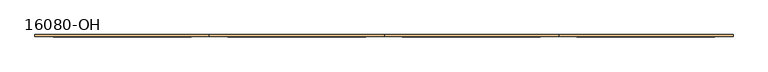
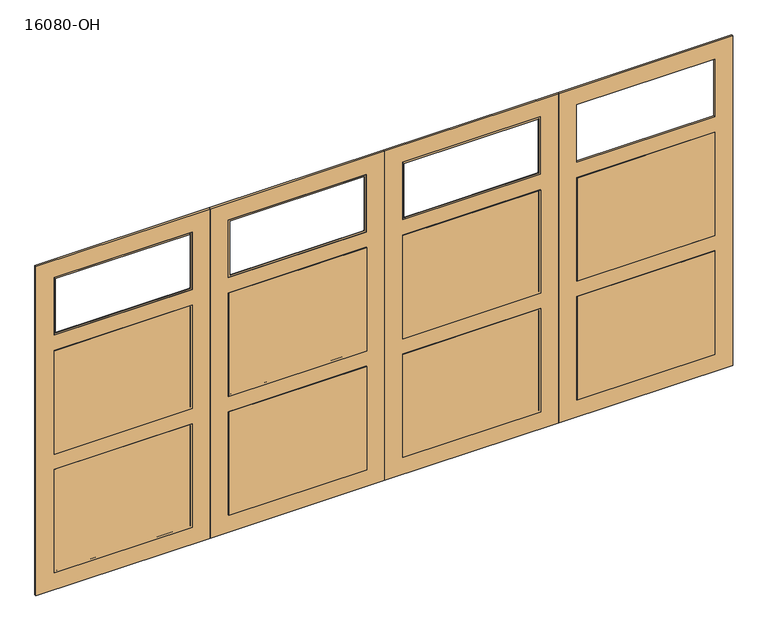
"""IFC4 building model written with IfcOpenShell, lengths in millimetres: door geometry, Upward sectional garage door : 16080-OH."""

from ifc_helpers import new_model, si_unit, frame, origin, place, context, project, spatial, polyline, ellipse_curve, outline, extrude, source, transform, mapped, element, save
from ifc_brep_helpers import plane_surface, cylinder_surface, advanced_brep


def door_16080_oh_f696e647(model_context):
    return source(origin(), model_context, "Body", "SolidModel", [
        extrude(outline(polyline([(2438.4, 0.0), (2438.4, -1219.2), (0.0, -1219.2), (0.0, 0.0), (2438.4, 0.0)]), holes=[polyline([(1771.65, -127.0), (1006.475, -127.0), (1006.475, -1092.2), (1771.65, -1092.2), (1771.65, -127.0)]), polyline([(892.175, -127.0), (127.0, -127.0), (127.0, -1092.2), (892.175, -1092.2), (892.175, -127.0)]), polyline([(1885.95, -127.0), (1885.95, -1092.2), (2311.4, -1092.2), (2311.4, -127.0), (1885.95, -127.0)])]), frame((0.0, -150.8125, 0.0), z_axis=(0.0, 1.0, 0.0), x_axis=(0.0, 0.0, 1.0)), (0.0, 0.0, 1.0), 12.7),
        extrude(outline(polyline([(-127.0, -150.8125), (-127.0, -153.9875), (-1092.2, -153.9875), (-1092.2, -150.8125), (-127.0, -150.8125)])), frame((0.0, 0.0, 1006.475), z_axis=(0.0, 0.0, 1.0), x_axis=(1.0, 0.0, 0.0)), (0.0, 0.0, 1.0), 765.175),
        extrude(outline(polyline([(-127.0, -150.8125), (-127.0, -153.9875), (-1092.2, -153.9875), (-1092.2, -150.8125), (-127.0, -150.8125)])), frame((0.0, 0.0, 127.0), z_axis=(0.0, 0.0, 1.0), x_axis=(1.0, 0.0, 0.0)), (0.0, 0.0, 1.0), 765.175),
        advanced_brep(
        [(-1089.025, -141.2875, 1889.125), (-1089.025, -141.2875, 2308.225), (-1079.5, -150.8125, 2298.7), (-1079.5, -150.8125, 1898.65), (-1089.025, -138.1125, 1889.125), (-1089.025, -138.1125, 2308.225), (-1092.2, -150.8125, 1885.95), (-1092.2, -150.8125, 2311.4), (-1092.2, -138.1125, 2311.4), (-1092.2, -138.1125, 1885.95), (-130.175, -141.2875, 2308.225), (-139.7, -150.8125, 2298.7), (-130.175, -138.1125, 2308.225), (-127.0, -150.8125, 2311.4), (-127.0, -138.1125, 2311.4), (-130.175, -141.2875, 1889.125), (-139.7, -150.8125, 1898.65), (-130.175, -138.1125, 1889.125), (-127.0, -150.8125, 1885.95), (-127.0, -138.1125, 1885.95)],
        [
            (0, 1),
            (1, 2, ellipse_curve(frame((-1089.025, -150.8125, 2308.225), z_axis=(-0.7071067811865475, 0.0, -0.7071067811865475), x_axis=(0.7071067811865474, 0.0, -0.7071067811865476)), 13.4703842, 9.525)),
            (2, 3),
            (3, 0, ellipse_curve(frame((-1089.025, -150.8125, 1889.125), z_axis=(-0.7071067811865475, 0.0, 0.7071067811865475), x_axis=(-0.7071067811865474, 0.0, -0.7071067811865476)), 13.4703842, 9.525)),
            (0, 4),
            (4, 5),
            (5, 1),
            (6, 7),
            (7, 8),
            (8, 9),
            (9, 6),
            (1, 10),
            (10, 11, ellipse_curve(frame((-130.175, -150.8125, 2308.225), z_axis=(-0.7071067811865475, 0.0, 0.7071067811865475), x_axis=(-0.7071067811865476, 0.0, -0.7071067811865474)), 13.4703842, 9.525)),
            (11, 2),
            (5, 12),
            (12, 10),
            (7, 13),
            (13, 14),
            (14, 8),
            (10, 15),
            (15, 16, ellipse_curve(frame((-130.175, -150.8125, 1889.125), z_axis=(0.7071067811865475, 0.0, 0.7071067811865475), x_axis=(-0.7071067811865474, 0.0, 0.7071067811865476)), 13.4703842, 9.525)),
            (16, 11),
            (12, 17),
            (17, 15),
            (13, 18),
            (18, 19),
            (19, 14),
            (6, 18),
            (16, 3),
            (15, 0),
            (17, 4),
            (19, 9),
        ],
        [
            cylinder_surface(frame((-1089.025, -150.8125, 1885.95), z_axis=(0.0, 0.0, -1.0), x_axis=(-1.0, 0.0, 0.0)), 9.525),
            plane_surface(frame((-1089.025, -141.2875, 1889.125), z_axis=(1.0, 0.0, 0.0), x_axis=(0.0, 0.0, 1.0))),
            plane_surface(frame((-1092.2, -138.1125, 1885.95), z_axis=(-1.0, 0.0, 0.0), x_axis=(0.0, 0.0, 1.0))),
            cylinder_surface(frame((-1092.2, -150.8125, 2308.225), z_axis=(-1.0, 0.0, 0.0), x_axis=(0.0, 0.0, 1.0)), 9.525),
            plane_surface(frame((-1089.025, -141.2875, 2308.225), z_axis=(0.0, 0.0, -1.0), x_axis=(1.0, 0.0, 0.0))),
            plane_surface(frame((-1092.2, -138.1125, 2311.4), z_axis=(0.0, 0.0, 1.0), x_axis=(1.0, 0.0, 0.0))),
            cylinder_surface(frame((-130.175, -150.8125, 2311.4), z_axis=(0.0, 0.0, 1.0), x_axis=(1.0, 0.0, 0.0)), 9.525),
            plane_surface(frame((-130.175, -141.2875, 2308.225), z_axis=(-1.0, 0.0, 0.0), x_axis=(0.0, 0.0, -1.0))),
            plane_surface(frame((-127.0, -138.1125, 2311.4), z_axis=(1.0, 0.0, 0.0), x_axis=(0.0, 0.0, -1.0))),
            plane_surface(frame((-127.0, -150.8125, 1885.95), z_axis=(0.0, -1.0, 0.0), x_axis=(-1.0, 0.0, 0.0))),
            cylinder_surface(frame((-127.0, -150.8125, 1889.125), z_axis=(1.0, 0.0, 0.0), x_axis=(0.0, 0.0, -1.0)), 9.525),
            plane_surface(frame((-130.175, -141.2875, 1889.125), z_axis=(0.0, 0.0, 1.0), x_axis=(-1.0, 0.0, 0.0))),
            plane_surface(frame((-130.175, -138.1125, 1889.125), z_axis=(0.0, 1.0, 0.0), x_axis=(-1.0, 0.0, 0.0))),
            plane_surface(frame((-127.0, -138.1125, 1885.95), z_axis=(0.0, 0.0, -1.0), x_axis=(-1.0, 0.0, 0.0))),
        ],
        [
            (0, [[1, 2, 3, 4]]),
            (1, [[5, 6, 7, -1]]),
            (2, [[8, 9, 10, 11]]),
            (3, [[12, 13, 14, -2]]),
            (4, [[15, 16, -12, -7]]),
            (5, [[17, 18, 19, -9]]),
            (6, [[20, 21, 22, -13]]),
            (7, [[23, 24, -20, -16]]),
            (8, [[25, 26, 27, -18]]),
            (9, [[28, -25, -17, -8], [-14, -22, 29, -3]]),
            (10, [[-29, -21, 30, -4]]),
            (11, [[-30, -24, 31, -5]]),
            (12, [[-19, -27, 32, -10], [-31, -23, -15, -6]]),
            (13, [[-32, -26, -28, -11]]),
        ],
    ),
        advanced_brep(
        [(-1089.025, -141.2875, 1768.475), (-1089.025, -141.2875, 1009.65), (-1089.025, -138.1125, 1009.65), (-1089.025, -138.1125, 1768.475), (-1079.5, -150.8125, 1758.95), (-1079.5, -150.8125, 1019.175), (-1092.2, -138.1125, 1771.65), (-1092.2, -138.1125, 1006.475), (-1092.2, -150.8125, 1006.475), (-1092.2, -150.8125, 1771.65), (-130.175, -141.2875, 1009.65), (-130.175, -138.1125, 1009.65), (-139.7, -150.8125, 1019.175), (-127.0, -138.1125, 1006.475), (-127.0, -150.8125, 1006.475), (-130.175, -141.2875, 1768.475), (-130.175, -138.1125, 1768.475), (-139.7, -150.8125, 1758.95), (-127.0, -138.1125, 1771.65), (-127.0, -150.8125, 1771.65)],
        [
            (0, 1),
            (1, 2),
            (2, 3),
            (3, 0),
            (0, 4, ellipse_curve(frame((-1089.025, -150.8125, 1768.475), z_axis=(-0.7071067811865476, 0.0, -0.7071067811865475), x_axis=(-0.7071067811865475, 0.0, 0.7071067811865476)), 13.4703842, 9.525)),
            (4, 5),
            (5, 1, ellipse_curve(frame((-1089.025, -150.8125, 1009.65), z_axis=(-0.7071067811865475, 0.0, 0.7071067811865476), x_axis=(0.7071067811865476, 0.0, 0.7071067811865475)), 13.4703842, 9.525)),
            (6, 7),
            (7, 8),
            (8, 9),
            (9, 6),
            (1, 10),
            (10, 11),
            (11, 2),
            (5, 12),
            (12, 10, ellipse_curve(frame((-130.175, -150.8125, 1009.65), z_axis=(-0.7071067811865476, 0.0, -0.7071067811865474), x_axis=(-0.7071067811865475, 0.0, 0.7071067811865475)), 13.4703842, 9.525)),
            (7, 13),
            (13, 14),
            (14, 8),
            (10, 15),
            (15, 16),
            (16, 11),
            (12, 17),
            (17, 15, ellipse_curve(frame((-130.175, -150.8125, 1768.475), z_axis=(0.7071067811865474, 0.0, -0.7071067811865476), x_axis=(-0.7071067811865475, 0.0, -0.7071067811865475)), 13.4703842, 9.525)),
            (13, 18),
            (18, 19),
            (19, 14),
            (6, 18),
            (16, 3),
            (15, 0),
            (17, 4),
            (19, 9),
        ],
        [
            plane_surface(frame((-1089.025, -138.1125, 1768.475), z_axis=(1.0, 0.0, 0.0), x_axis=(0.0, 0.0, -1.0))),
            cylinder_surface(frame((-1089.025, -150.8125, 1771.65), z_axis=(0.0, 0.0, 1.0), x_axis=(1.0, 0.0, 0.0)), 9.525),
            plane_surface(frame((-1092.2, -150.8125, 1771.65), z_axis=(-1.0, 0.0, 0.0), x_axis=(0.0, 0.0, -1.0))),
            plane_surface(frame((-1089.025, -138.1125, 1009.65), z_axis=(0.0, 0.0, 1.0), x_axis=(1.0, 0.0, 0.0))),
            cylinder_surface(frame((-1092.2, -150.8125, 1009.65), z_axis=(-1.0, 0.0, 0.0), x_axis=(0.0, 0.0, 1.0)), 9.525),
            plane_surface(frame((-1092.2, -150.8125, 1006.475), z_axis=(0.0, 0.0, -1.0), x_axis=(1.0, 0.0, 0.0))),
            plane_surface(frame((-130.175, -138.1125, 1009.65), z_axis=(-1.0, 0.0, 0.0), x_axis=(0.0, 0.0, 1.0))),
            cylinder_surface(frame((-130.175, -150.8125, 1006.475), z_axis=(0.0, 0.0, -1.0), x_axis=(-1.0, 0.0, 0.0)), 9.525),
            plane_surface(frame((-127.0, -150.8125, 1006.475), z_axis=(1.0, 0.0, 0.0), x_axis=(0.0, 0.0, 1.0))),
            plane_surface(frame((-127.0, -138.1125, 1771.65), z_axis=(0.0, 1.0, 0.0), x_axis=(-1.0, 0.0, 0.0))),
            plane_surface(frame((-130.175, -138.1125, 1768.475), z_axis=(0.0, 0.0, -1.0), x_axis=(-1.0, 0.0, 0.0))),
            cylinder_surface(frame((-127.0, -150.8125, 1768.475), z_axis=(1.0, 0.0, 0.0), x_axis=(0.0, 0.0, -1.0)), 9.525),
            plane_surface(frame((-139.7, -150.8125, 1758.95), z_axis=(0.0, -1.0, 0.0), x_axis=(-1.0, 0.0, 0.0))),
            plane_surface(frame((-127.0, -150.8125, 1771.65), z_axis=(0.0, 0.0, 1.0), x_axis=(-1.0, 0.0, 0.0))),
        ],
        [
            (0, [[1, 2, 3, 4]]),
            (1, [[5, 6, 7, -1]]),
            (2, [[8, 9, 10, 11]]),
            (3, [[12, 13, 14, -2]]),
            (4, [[15, 16, -12, -7]]),
            (5, [[17, 18, 19, -9]]),
            (6, [[20, 21, 22, -13]]),
            (7, [[23, 24, -20, -16]]),
            (8, [[25, 26, 27, -18]]),
            (9, [[28, -25, -17, -8], [-14, -22, 29, -3]]),
            (10, [[-29, -21, 30, -4]]),
            (11, [[-30, -24, 31, -5]]),
            (12, [[-19, -27, 32, -10], [-31, -23, -15, -6]]),
            (13, [[-32, -26, -28, -11]]),
        ],
    ),
        advanced_brep(
        [(-1092.2, -138.1125, 892.175), (-1092.2, -138.1125, 127.0), (-1092.2, -150.8125, 127.0), (-1092.2, -150.8125, 892.175), (-1089.025, -141.2875, 889.0), (-1089.025, -141.2875, 130.175), (-1089.025, -138.1125, 130.175), (-1089.025, -138.1125, 889.0), (-1079.5, -150.8125, 879.475), (-1079.5, -150.8125, 139.7), (-127.0, -138.1125, 127.0), (-127.0, -150.8125, 127.0), (-130.175, -141.2875, 130.175), (-130.175, -138.1125, 130.175), (-139.7, -150.8125, 139.7), (-127.0, -138.1125, 892.175), (-127.0, -150.8125, 892.175), (-130.175, -141.2875, 889.0), (-130.175, -138.1125, 889.0), (-139.7, -150.8125, 879.475)],
        [
            (0, 1),
            (1, 2),
            (2, 3),
            (3, 0),
            (4, 5),
            (5, 6),
            (6, 7),
            (7, 4),
            (4, 8, ellipse_curve(frame((-1089.025, -150.8125, 889.0), z_axis=(-0.7071067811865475, 0.0, -0.7071067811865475), x_axis=(-0.7071067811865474, 0.0, 0.7071067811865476)), 13.4703842, 9.525)),
            (8, 9),
            (9, 5, ellipse_curve(frame((-1089.025, -150.8125, 130.175), z_axis=(-0.7071067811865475, 0.0, 0.7071067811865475), x_axis=(0.7071067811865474, 0.0, 0.7071067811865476)), 13.4703842, 9.525)),
            (1, 10),
            (10, 11),
            (11, 2),
            (5, 12),
            (12, 13),
            (13, 6),
            (9, 14),
            (14, 12, ellipse_curve(frame((-130.175, -150.8125, 130.175), z_axis=(-0.7071067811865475, 0.0, -0.7071067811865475), x_axis=(-0.7071067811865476, 0.0, 0.7071067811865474)), 13.4703842, 9.525)),
            (10, 15),
            (15, 16),
            (16, 11),
            (12, 17),
            (17, 18),
            (18, 13),
            (14, 19),
            (19, 17, ellipse_curve(frame((-130.175, -150.8125, 889.0), z_axis=(0.7071067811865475, 0.0, -0.7071067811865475), x_axis=(-0.7071067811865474, 0.0, -0.7071067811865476)), 13.4703842, 9.525)),
            (16, 3),
            (8, 19),
            (15, 0),
            (18, 7),
            (17, 4),
        ],
        [
            plane_surface(frame((-1092.2, -150.8125, 892.175), z_axis=(-1.0, 0.0, 0.0), x_axis=(0.0, 0.0, -1.0))),
            plane_surface(frame((-1089.025, -138.1125, 889.0), z_axis=(1.0, 0.0, 0.0), x_axis=(0.0, 0.0, -1.0))),
            cylinder_surface(frame((-1089.025, -150.8125, 892.175), z_axis=(0.0, 0.0, 1.0), x_axis=(1.0, 0.0, 0.0)), 9.525),
            plane_surface(frame((-1092.2, -150.8125, 127.0), z_axis=(0.0, 0.0, -1.0), x_axis=(1.0, 0.0, 0.0))),
            plane_surface(frame((-1089.025, -138.1125, 130.175), z_axis=(0.0, 0.0, 1.0), x_axis=(1.0, 0.0, 0.0))),
            cylinder_surface(frame((-1092.2, -150.8125, 130.175), z_axis=(-1.0, 0.0, 0.0), x_axis=(0.0, 0.0, 1.0)), 9.525),
            plane_surface(frame((-127.0, -150.8125, 127.0), z_axis=(1.0, 0.0, 0.0), x_axis=(0.0, 0.0, 1.0))),
            plane_surface(frame((-130.175, -138.1125, 130.175), z_axis=(-1.0, 0.0, 0.0), x_axis=(0.0, 0.0, 1.0))),
            cylinder_surface(frame((-130.175, -150.8125, 127.0), z_axis=(0.0, 0.0, -1.0), x_axis=(-1.0, 0.0, 0.0)), 9.525),
            plane_surface(frame((-139.7, -150.8125, 879.475), z_axis=(0.0, -1.0, 0.0), x_axis=(-1.0, 0.0, 0.0))),
            plane_surface(frame((-127.0, -150.8125, 892.175), z_axis=(0.0, 0.0, 1.0), x_axis=(-1.0, 0.0, 0.0))),
            plane_surface(frame((-127.0, -138.1125, 892.175), z_axis=(0.0, 1.0, 0.0), x_axis=(-1.0, 0.0, 0.0))),
            plane_surface(frame((-130.175, -138.1125, 889.0), z_axis=(0.0, 0.0, -1.0), x_axis=(-1.0, 0.0, 0.0))),
            cylinder_surface(frame((-127.0, -150.8125, 889.0), z_axis=(1.0, 0.0, 0.0), x_axis=(0.0, 0.0, -1.0)), 9.525),
        ],
        [
            (0, [[1, 2, 3, 4]]),
            (1, [[5, 6, 7, 8]]),
            (2, [[9, 10, 11, -5]]),
            (3, [[12, 13, 14, -2]]),
            (4, [[15, 16, 17, -6]]),
            (5, [[18, 19, -15, -11]]),
            (6, [[20, 21, 22, -13]]),
            (7, [[23, 24, 25, -16]]),
            (8, [[26, 27, -23, -19]]),
            (9, [[-14, -22, 28, -3], [29, -26, -18, -10]]),
            (10, [[-28, -21, 30, -4]]),
            (11, [[-30, -20, -12, -1], [-17, -25, 31, -7]]),
            (12, [[-31, -24, 32, -8]]),
            (13, [[-32, -27, -29, -9]]),
        ],
    ),
        extrude(outline(polyline([(2438.4, 0.0), (0.0, 0.0), (0.0, 1219.2), (2438.4, 1219.2), (2438.4, 0.0)]), holes=[polyline([(1771.65, 127.0), (1771.65, 1092.2), (1006.475, 1092.2), (1006.475, 127.0), (1771.65, 127.0)]), polyline([(892.175, 127.0), (892.175, 1092.2), (127.0, 1092.2), (127.0, 127.0), (892.175, 127.0)]), polyline([(1885.95, 127.0), (2311.4, 127.0), (2311.4, 1092.2), (1885.95, 1092.2), (1885.95, 127.0)])]), frame((0.0, -150.8125, 0.0), z_axis=(0.0, 1.0, 0.0), x_axis=(0.0, 0.0, 1.0)), (0.0, 0.0, 1.0), 12.7),
        extrude(outline(polyline([(127.0, -150.8125), (1092.2, -150.8125), (1092.2, -153.9875), (127.0, -153.9875), (127.0, -150.8125)])), frame((0.0, 0.0, 1006.475), z_axis=(0.0, 0.0, 1.0), x_axis=(1.0, 0.0, 0.0)), (0.0, 0.0, 1.0), 765.175),
        extrude(outline(polyline([(127.0, -150.8125), (1092.2, -150.8125), (1092.2, -153.9875), (127.0, -153.9875), (127.0, -150.8125)])), frame((0.0, 0.0, 127.0), z_axis=(0.0, 0.0, 1.0), x_axis=(1.0, 0.0, 0.0)), (0.0, 0.0, 1.0), 765.175),
        advanced_brep(
        [(1089.025, -141.2875, 1889.125), (1079.5, -150.8125, 1898.65), (1079.5, -150.8125, 2298.7), (1089.025, -141.2875, 2308.225), (1089.025, -138.1125, 2308.225), (1089.025, -138.1125, 1889.125), (1092.2, -150.8125, 1885.95), (1092.2, -138.1125, 1885.95), (1092.2, -138.1125, 2311.4), (1092.2, -150.8125, 2311.4), (139.7, -150.8125, 2298.7), (130.175, -141.2875, 2308.225), (130.175, -138.1125, 2308.225), (127.0, -138.1125, 2311.4), (127.0, -150.8125, 2311.4), (139.7, -150.8125, 1898.65), (130.175, -141.2875, 1889.125), (130.175, -138.1125, 1889.125), (127.0, -138.1125, 1885.95), (127.0, -150.8125, 1885.95)],
        [
            (0, 1, ellipse_curve(frame((1089.025, -150.8125, 1889.125), z_axis=(0.7071067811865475, 0.0, 0.7071067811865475), x_axis=(0.7071067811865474, 0.0, -0.7071067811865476)), 13.4703842, 9.525)),
            (1, 2),
            (2, 3, ellipse_curve(frame((1089.025, -150.8125, 2308.225), z_axis=(0.7071067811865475, 0.0, -0.7071067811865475), x_axis=(-0.7071067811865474, 0.0, -0.7071067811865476)), 13.4703842, 9.525)),
            (3, 0),
            (3, 4),
            (4, 5),
            (5, 0),
            (6, 7),
            (7, 8),
            (8, 9),
            (9, 6),
            (2, 10),
            (10, 11, ellipse_curve(frame((130.175, -150.8125, 2308.225), z_axis=(0.7071067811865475, 0.0, 0.7071067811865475), x_axis=(0.7071067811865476, 0.0, -0.7071067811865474)), 13.4703842, 9.525)),
            (11, 3),
            (11, 12),
            (12, 4),
            (8, 13),
            (13, 14),
            (14, 9),
            (10, 15),
            (15, 16, ellipse_curve(frame((130.175, -150.8125, 1889.125), z_axis=(-0.7071067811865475, 0.0, 0.7071067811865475), x_axis=(0.7071067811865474, 0.0, 0.7071067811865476)), 13.4703842, 9.525)),
            (16, 11),
            (16, 17),
            (17, 12),
            (13, 18),
            (18, 19),
            (19, 14),
            (19, 6),
            (1, 15),
            (0, 16),
            (5, 17),
            (7, 18),
        ],
        [
            cylinder_surface(frame((1089.025, -150.8125, 1885.95), z_axis=(0.0, 0.0, -1.0), x_axis=(1.0, 0.0, 0.0)), 9.525),
            plane_surface(frame((1089.025, -141.2875, 1889.125), z_axis=(-1.0, 0.0, 0.0), x_axis=(0.0, 0.0, 1.0))),
            plane_surface(frame((1092.2, -138.1125, 1885.95), z_axis=(1.0, 0.0, 0.0), x_axis=(0.0, 0.0, 1.0))),
            cylinder_surface(frame((1092.2, -150.8125, 2308.225), z_axis=(1.0, 0.0, 0.0), x_axis=(0.0, 0.0, 1.0)), 9.525),
            plane_surface(frame((1089.025, -141.2875, 2308.225), z_axis=(0.0, 0.0, -1.0), x_axis=(-1.0, 0.0, 0.0))),
            plane_surface(frame((1092.2, -138.1125, 2311.4), z_axis=(0.0, 0.0, 1.0), x_axis=(-1.0, 0.0, 0.0))),
            cylinder_surface(frame((130.175, -150.8125, 2311.4), z_axis=(0.0, 0.0, 1.0), x_axis=(-1.0, 0.0, 0.0)), 9.525),
            plane_surface(frame((130.175, -141.2875, 2308.225), z_axis=(1.0, 0.0, 0.0), x_axis=(0.0, 0.0, -1.0))),
            plane_surface(frame((127.0, -138.1125, 2311.4), z_axis=(-1.0, 0.0, 0.0), x_axis=(0.0, 0.0, -1.0))),
            plane_surface(frame((127.0, -150.8125, 1885.95), z_axis=(0.0, -1.0, 0.0), x_axis=(1.0, 0.0, 0.0))),
            cylinder_surface(frame((127.0, -150.8125, 1889.125), z_axis=(-1.0, 0.0, 0.0), x_axis=(0.0, 0.0, -1.0)), 9.525),
            plane_surface(frame((130.175, -141.2875, 1889.125), z_axis=(0.0, 0.0, 1.0), x_axis=(1.0, 0.0, 0.0))),
            plane_surface(frame((130.175, -138.1125, 1889.125), z_axis=(0.0, 1.0, 0.0), x_axis=(1.0, 0.0, 0.0))),
            plane_surface(frame((127.0, -138.1125, 1885.95), z_axis=(0.0, 0.0, -1.0), x_axis=(1.0, 0.0, 0.0))),
        ],
        [
            (0, [[1, 2, 3, 4]]),
            (1, [[-4, 5, 6, 7]]),
            (2, [[8, 9, 10, 11]]),
            (3, [[-3, 12, 13, 14]]),
            (4, [[-5, -14, 15, 16]]),
            (5, [[-10, 17, 18, 19]]),
            (6, [[-13, 20, 21, 22]]),
            (7, [[-15, -22, 23, 24]]),
            (8, [[-18, 25, 26, 27]]),
            (9, [[-11, -19, -27, 28], [-2, 29, -20, -12]]),
            (10, [[-1, 30, -21, -29]]),
            (11, [[-7, 31, -23, -30]]),
            (12, [[-9, 32, -25, -17], [-6, -16, -24, -31]]),
            (13, [[-8, -28, -26, -32]]),
        ],
    ),
        advanced_brep(
        [(1089.025, -141.2875, 1768.475), (1089.025, -138.1125, 1768.475), (1089.025, -138.1125, 1009.65), (1089.025, -141.2875, 1009.65), (1079.5, -150.8125, 1019.175), (1079.5, -150.8125, 1758.95), (1092.2, -138.1125, 1771.65), (1092.2, -150.8125, 1771.65), (1092.2, -150.8125, 1006.475), (1092.2, -138.1125, 1006.475), (130.175, -138.1125, 1009.65), (130.175, -141.2875, 1009.65), (139.7, -150.8125, 1019.175), (127.0, -150.8125, 1006.475), (127.0, -138.1125, 1006.475), (130.175, -138.1125, 1768.475), (130.175, -141.2875, 1768.475), (139.7, -150.8125, 1758.95), (127.0, -150.8125, 1771.65), (127.0, -138.1125, 1771.65)],
        [
            (0, 1),
            (1, 2),
            (2, 3),
            (3, 0),
            (3, 4, ellipse_curve(frame((1089.025, -150.8125, 1009.65), z_axis=(0.7071067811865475, 0.0, 0.7071067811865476), x_axis=(-0.7071067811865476, 0.0, 0.7071067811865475)), 13.4703842, 9.525)),
            (4, 5),
            (5, 0, ellipse_curve(frame((1089.025, -150.8125, 1768.475), z_axis=(0.7071067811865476, 0.0, -0.7071067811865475), x_axis=(0.7071067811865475, 0.0, 0.7071067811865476)), 13.4703842, 9.525)),
            (6, 7),
            (7, 8),
            (8, 9),
            (9, 6),
            (2, 10),
            (10, 11),
            (11, 3),
            (11, 12, ellipse_curve(frame((130.175, -150.8125, 1009.65), z_axis=(0.7071067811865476, 0.0, -0.7071067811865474), x_axis=(0.7071067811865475, 0.0, 0.7071067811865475)), 13.4703842, 9.525)),
            (12, 4),
            (8, 13),
            (13, 14),
            (14, 9),
            (10, 15),
            (15, 16),
            (16, 11),
            (16, 17, ellipse_curve(frame((130.175, -150.8125, 1768.475), z_axis=(-0.7071067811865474, 0.0, -0.7071067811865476), x_axis=(0.7071067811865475, 0.0, -0.7071067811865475)), 13.4703842, 9.525)),
            (17, 12),
            (13, 18),
            (18, 19),
            (19, 14),
            (19, 6),
            (1, 15),
            (0, 16),
            (5, 17),
            (7, 18),
        ],
        [
            plane_surface(frame((1089.025, -138.1125, 1768.475), z_axis=(-1.0, 0.0, 0.0), x_axis=(0.0, 0.0, -1.0))),
            cylinder_surface(frame((1089.025, -150.8125, 1771.65), z_axis=(0.0, 0.0, 1.0), x_axis=(-1.0, 0.0, 0.0)), 9.525),
            plane_surface(frame((1092.2, -150.8125, 1771.65), z_axis=(1.0, 0.0, 0.0), x_axis=(0.0, 0.0, -1.0))),
            plane_surface(frame((1089.025, -138.1125, 1009.65), z_axis=(0.0, 0.0, 1.0), x_axis=(-1.0, 0.0, 0.0))),
            cylinder_surface(frame((1092.2, -150.8125, 1009.65), z_axis=(1.0, 0.0, 0.0), x_axis=(0.0, 0.0, 1.0)), 9.525),
            plane_surface(frame((1092.2, -150.8125, 1006.475), z_axis=(0.0, 0.0, -1.0), x_axis=(-1.0, 0.0, 0.0))),
            plane_surface(frame((130.175, -138.1125, 1009.65), z_axis=(1.0, 0.0, 0.0), x_axis=(0.0, 0.0, 1.0))),
            cylinder_surface(frame((130.175, -150.8125, 1006.475), z_axis=(0.0, 0.0, -1.0), x_axis=(1.0, 0.0, 0.0)), 9.525),
            plane_surface(frame((127.0, -150.8125, 1006.475), z_axis=(-1.0, 0.0, 0.0), x_axis=(0.0, 0.0, 1.0))),
            plane_surface(frame((127.0, -138.1125, 1771.65), z_axis=(0.0, 1.0, 0.0), x_axis=(1.0, 0.0, 0.0))),
            plane_surface(frame((130.175, -138.1125, 1768.475), z_axis=(0.0, 0.0, -1.0), x_axis=(1.0, 0.0, 0.0))),
            cylinder_surface(frame((127.0, -150.8125, 1768.475), z_axis=(-1.0, 0.0, 0.0), x_axis=(0.0, 0.0, -1.0)), 9.525),
            plane_surface(frame((139.7, -150.8125, 1758.95), z_axis=(0.0, -1.0, 0.0), x_axis=(1.0, 0.0, 0.0))),
            plane_surface(frame((127.0, -150.8125, 1771.65), z_axis=(0.0, 0.0, 1.0), x_axis=(1.0, 0.0, 0.0))),
        ],
        [
            (0, [[1, 2, 3, 4]]),
            (1, [[-4, 5, 6, 7]]),
            (2, [[8, 9, 10, 11]]),
            (3, [[-3, 12, 13, 14]]),
            (4, [[-5, -14, 15, 16]]),
            (5, [[-10, 17, 18, 19]]),
            (6, [[-13, 20, 21, 22]]),
            (7, [[-15, -22, 23, 24]]),
            (8, [[-18, 25, 26, 27]]),
            (9, [[-11, -19, -27, 28], [-2, 29, -20, -12]]),
            (10, [[-1, 30, -21, -29]]),
            (11, [[-7, 31, -23, -30]]),
            (12, [[-9, 32, -25, -17], [-6, -16, -24, -31]]),
            (13, [[-8, -28, -26, -32]]),
        ],
    ),
        advanced_brep(
        [(1092.2, -138.1125, 892.175), (1092.2, -150.8125, 892.175), (1092.2, -150.8125, 127.0), (1092.2, -138.1125, 127.0), (1089.025, -141.2875, 889.0), (1089.025, -138.1125, 889.0), (1089.025, -138.1125, 130.175), (1089.025, -141.2875, 130.175), (1079.5, -150.8125, 139.7), (1079.5, -150.8125, 879.475), (127.0, -150.8125, 127.0), (127.0, -138.1125, 127.0), (130.175, -138.1125, 130.175), (130.175, -141.2875, 130.175), (139.7, -150.8125, 139.7), (127.0, -150.8125, 892.175), (127.0, -138.1125, 892.175), (130.175, -138.1125, 889.0), (130.175, -141.2875, 889.0), (139.7, -150.8125, 879.475)],
        [
            (0, 1),
            (1, 2),
            (2, 3),
            (3, 0),
            (4, 5),
            (5, 6),
            (6, 7),
            (7, 4),
            (7, 8, ellipse_curve(frame((1089.025, -150.8125, 130.175), z_axis=(0.7071067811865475, 0.0, 0.7071067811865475), x_axis=(-0.7071067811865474, 0.0, 0.7071067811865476)), 13.4703842, 9.525)),
            (8, 9),
            (9, 4, ellipse_curve(frame((1089.025, -150.8125, 889.0), z_axis=(0.7071067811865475, 0.0, -0.7071067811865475), x_axis=(0.7071067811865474, 0.0, 0.7071067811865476)), 13.4703842, 9.525)),
            (2, 10),
            (10, 11),
            (11, 3),
            (6, 12),
            (12, 13),
            (13, 7),
            (13, 14, ellipse_curve(frame((130.175, -150.8125, 130.175), z_axis=(0.7071067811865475, 0.0, -0.7071067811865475), x_axis=(0.7071067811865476, 0.0, 0.7071067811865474)), 13.4703842, 9.525)),
            (14, 8),
            (10, 15),
            (15, 16),
            (16, 11),
            (12, 17),
            (17, 18),
            (18, 13),
            (18, 19, ellipse_curve(frame((130.175, -150.8125, 889.0), z_axis=(-0.7071067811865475, 0.0, -0.7071067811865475), x_axis=(0.7071067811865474, 0.0, -0.7071067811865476)), 13.4703842, 9.525)),
            (19, 14),
            (1, 15),
            (19, 9),
            (0, 16),
            (5, 17),
            (4, 18),
        ],
        [
            plane_surface(frame((1092.2, -150.8125, 892.175), z_axis=(1.0, 0.0, 0.0), x_axis=(0.0, 0.0, -1.0))),
            plane_surface(frame((1089.025, -138.1125, 889.0), z_axis=(-1.0, 0.0, 0.0), x_axis=(0.0, 0.0, -1.0))),
            cylinder_surface(frame((1089.025, -150.8125, 892.175), z_axis=(0.0, 0.0, 1.0), x_axis=(-1.0, 0.0, 0.0)), 9.525),
            plane_surface(frame((1092.2, -150.8125, 127.0), z_axis=(0.0, 0.0, -1.0), x_axis=(-1.0, 0.0, 0.0))),
            plane_surface(frame((1089.025, -138.1125, 130.175), z_axis=(0.0, 0.0, 1.0), x_axis=(-1.0, 0.0, 0.0))),
            cylinder_surface(frame((1092.2, -150.8125, 130.175), z_axis=(1.0, 0.0, 0.0), x_axis=(0.0, 0.0, 1.0)), 9.525),
            plane_surface(frame((127.0, -150.8125, 127.0), z_axis=(-1.0, 0.0, 0.0), x_axis=(0.0, 0.0, 1.0))),
            plane_surface(frame((130.175, -138.1125, 130.175), z_axis=(1.0, 0.0, 0.0), x_axis=(0.0, 0.0, 1.0))),
            cylinder_surface(frame((130.175, -150.8125, 127.0), z_axis=(0.0, 0.0, -1.0), x_axis=(1.0, 0.0, 0.0)), 9.525),
            plane_surface(frame((139.7, -150.8125, 879.475), z_axis=(0.0, -1.0, 0.0), x_axis=(1.0, 0.0, 0.0))),
            plane_surface(frame((127.0, -150.8125, 892.175), z_axis=(0.0, 0.0, 1.0), x_axis=(1.0, 0.0, 0.0))),
            plane_surface(frame((127.0, -138.1125, 892.175), z_axis=(0.0, 1.0, 0.0), x_axis=(1.0, 0.0, 0.0))),
            plane_surface(frame((130.175, -138.1125, 889.0), z_axis=(0.0, 0.0, -1.0), x_axis=(1.0, 0.0, 0.0))),
            cylinder_surface(frame((127.0, -150.8125, 889.0), z_axis=(-1.0, 0.0, 0.0), x_axis=(0.0, 0.0, -1.0)), 9.525),
        ],
        [
            (0, [[1, 2, 3, 4]]),
            (1, [[5, 6, 7, 8]]),
            (2, [[-8, 9, 10, 11]]),
            (3, [[-3, 12, 13, 14]]),
            (4, [[-7, 15, 16, 17]]),
            (5, [[-9, -17, 18, 19]]),
            (6, [[-13, 20, 21, 22]]),
            (7, [[-16, 23, 24, 25]]),
            (8, [[-18, -25, 26, 27]]),
            (9, [[-2, 28, -20, -12], [-10, -19, -27, 29]]),
            (10, [[-1, 30, -21, -28]]),
            (11, [[-4, -14, -22, -30], [-6, 31, -23, -15]]),
            (12, [[-5, 32, -24, -31]]),
            (13, [[-11, -29, -26, -32]]),
        ],
    ),
        extrude(outline(polyline([(2438.4, -1219.2), (2438.4, -2438.4), (0.0, -2438.4), (0.0, -1219.2), (2438.4, -1219.2)]), holes=[polyline([(1771.65, -1346.2), (1006.475, -1346.2), (1006.475, -2311.4), (1771.65, -2311.4), (1771.65, -1346.2)]), polyline([(892.175, -1346.2), (127.0, -1346.2), (127.0, -2311.4), (892.175, -2311.4), (892.175, -1346.2)]), polyline([(1885.95, -1346.2), (1885.95, -2311.4), (2311.4, -2311.4), (2311.4, -1346.2), (1885.95, -1346.2)])]), frame((0.0, -150.8125, 0.0), z_axis=(0.0, 1.0, 0.0), x_axis=(0.0, 0.0, 1.0)), (0.0, 0.0, 1.0), 12.7),
        extrude(outline(polyline([(-1346.2, -150.8125), (-1346.2, -153.9875), (-2311.4, -153.9875), (-2311.4, -150.8125), (-1346.2, -150.8125)])), frame((0.0, 0.0, 1006.475), z_axis=(0.0, 0.0, 1.0), x_axis=(1.0, 0.0, 0.0)), (0.0, 0.0, 1.0), 765.175),
        extrude(outline(polyline([(-1346.2, -150.8125), (-1346.2, -153.9875), (-2311.4, -153.9875), (-2311.4, -150.8125), (-1346.2, -150.8125)])), frame((0.0, 0.0, 127.0), z_axis=(0.0, 0.0, 1.0), x_axis=(1.0, 0.0, 0.0)), (0.0, 0.0, 1.0), 765.175),
        advanced_brep(
        [(-2308.225, -141.2875, 1889.125), (-2308.225, -141.2875, 2308.225), (-2298.7, -150.8125, 2298.7), (-2298.7, -150.8125, 1898.65), (-2308.225, -138.1125, 1889.125), (-2308.225, -138.1125, 2308.225), (-2311.4, -150.8125, 1885.95), (-2311.4, -150.8125, 2311.4), (-2311.4, -138.1125, 2311.4), (-2311.4, -138.1125, 1885.95), (-1349.375, -141.2875, 2308.225), (-1358.9, -150.8125, 2298.7), (-1349.375, -138.1125, 2308.225), (-1346.2, -150.8125, 2311.4), (-1346.2, -138.1125, 2311.4), (-1349.375, -141.2875, 1889.125), (-1358.9, -150.8125, 1898.65), (-1349.375, -138.1125, 1889.125), (-1346.2, -150.8125, 1885.95), (-1346.2, -138.1125, 1885.95)],
        [
            (0, 1),
            (1, 2, ellipse_curve(frame((-2308.225, -150.8125, 2308.225), z_axis=(-0.7071067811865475, 0.0, -0.7071067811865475), x_axis=(0.7071067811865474, 0.0, -0.7071067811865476)), 13.4703842, 9.525)),
            (2, 3),
            (3, 0, ellipse_curve(frame((-2308.225, -150.8125, 1889.125), z_axis=(-0.7071067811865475, 0.0, 0.7071067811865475), x_axis=(-0.7071067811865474, 0.0, -0.7071067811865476)), 13.4703842, 9.525)),
            (0, 4),
            (4, 5),
            (5, 1),
            (6, 7),
            (7, 8),
            (8, 9),
            (9, 6),
            (1, 10),
            (10, 11, ellipse_curve(frame((-1349.375, -150.8125, 2308.225), z_axis=(-0.7071067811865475, 0.0, 0.7071067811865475), x_axis=(-0.7071067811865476, 0.0, -0.7071067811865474)), 13.4703842, 9.525)),
            (11, 2),
            (5, 12),
            (12, 10),
            (7, 13),
            (13, 14),
            (14, 8),
            (10, 15),
            (15, 16, ellipse_curve(frame((-1349.375, -150.8125, 1889.125), z_axis=(0.7071067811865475, 0.0, 0.7071067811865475), x_axis=(-0.7071067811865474, 0.0, 0.7071067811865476)), 13.4703842, 9.525)),
            (16, 11),
            (12, 17),
            (17, 15),
            (13, 18),
            (18, 19),
            (19, 14),
            (6, 18),
            (16, 3),
            (15, 0),
            (17, 4),
            (19, 9),
        ],
        [
            cylinder_surface(frame((-2308.225, -150.8125, 1885.95), z_axis=(0.0, 0.0, -1.0), x_axis=(-1.0, 0.0, 0.0)), 9.525),
            plane_surface(frame((-2308.225, -141.2875, 1889.125), z_axis=(1.0, 0.0, 0.0), x_axis=(0.0, 0.0, 1.0))),
            plane_surface(frame((-2311.4, -138.1125, 1885.95), z_axis=(-1.0, 0.0, 0.0), x_axis=(0.0, 0.0, 1.0))),
            cylinder_surface(frame((-2311.4, -150.8125, 2308.225), z_axis=(-1.0, 0.0, 0.0), x_axis=(0.0, 0.0, 1.0)), 9.525),
            plane_surface(frame((-2308.225, -141.2875, 2308.225), z_axis=(0.0, 0.0, -1.0), x_axis=(1.0, 0.0, 0.0))),
            plane_surface(frame((-2311.4, -138.1125, 2311.4), z_axis=(0.0, 0.0, 1.0), x_axis=(1.0, 0.0, 0.0))),
            cylinder_surface(frame((-1349.375, -150.8125, 2311.4), z_axis=(0.0, 0.0, 1.0), x_axis=(1.0, 0.0, 0.0)), 9.525),
            plane_surface(frame((-1349.375, -141.2875, 2308.225), z_axis=(-1.0, 0.0, 0.0), x_axis=(0.0, 0.0, -1.0))),
            plane_surface(frame((-1346.2, -138.1125, 2311.4), z_axis=(1.0, 0.0, 0.0), x_axis=(0.0, 0.0, -1.0))),
            plane_surface(frame((-1346.2, -150.8125, 1885.95), z_axis=(0.0, -1.0, 0.0), x_axis=(-1.0, 0.0, 0.0))),
            cylinder_surface(frame((-1346.2, -150.8125, 1889.125), z_axis=(1.0, 0.0, 0.0), x_axis=(0.0, 0.0, -1.0)), 9.525),
            plane_surface(frame((-1349.375, -141.2875, 1889.125), z_axis=(0.0, 0.0, 1.0), x_axis=(-1.0, 0.0, 0.0))),
            plane_surface(frame((-1349.375, -138.1125, 1889.125), z_axis=(0.0, 1.0, 0.0), x_axis=(-1.0, 0.0, 0.0))),
            plane_surface(frame((-1346.2, -138.1125, 1885.95), z_axis=(0.0, 0.0, -1.0), x_axis=(-1.0, 0.0, 0.0))),
        ],
        [
            (0, [[1, 2, 3, 4]]),
            (1, [[5, 6, 7, -1]]),
            (2, [[8, 9, 10, 11]]),
            (3, [[12, 13, 14, -2]]),
            (4, [[15, 16, -12, -7]]),
            (5, [[17, 18, 19, -9]]),
            (6, [[20, 21, 22, -13]]),
            (7, [[23, 24, -20, -16]]),
            (8, [[25, 26, 27, -18]]),
            (9, [[28, -25, -17, -8], [-14, -22, 29, -3]]),
            (10, [[-29, -21, 30, -4]]),
            (11, [[-30, -24, 31, -5]]),
            (12, [[-19, -27, 32, -10], [-31, -23, -15, -6]]),
            (13, [[-32, -26, -28, -11]]),
        ],
    ),
        advanced_brep(
        [(-2308.225, -141.2875, 1768.475), (-2308.225, -141.2875, 1009.65), (-2308.225, -138.1125, 1009.65), (-2308.225, -138.1125, 1768.475), (-2298.7, -150.8125, 1758.95), (-2298.7, -150.8125, 1019.175), (-2311.4, -138.1125, 1771.65), (-2311.4, -138.1125, 1006.475), (-2311.4, -150.8125, 1006.475), (-2311.4, -150.8125, 1771.65), (-1349.375, -141.2875, 1009.65), (-1349.375, -138.1125, 1009.65), (-1358.9, -150.8125, 1019.175), (-1346.2, -138.1125, 1006.475), (-1346.2, -150.8125, 1006.475), (-1349.375, -141.2875, 1768.475), (-1349.375, -138.1125, 1768.475), (-1358.9, -150.8125, 1758.95), (-1346.2, -138.1125, 1771.65), (-1346.2, -150.8125, 1771.65)],
        [
            (0, 1),
            (1, 2),
            (2, 3),
            (3, 0),
            (0, 4, ellipse_curve(frame((-2308.225, -150.8125, 1768.475), z_axis=(-0.7071067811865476, 0.0, -0.7071067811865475), x_axis=(-0.7071067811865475, 0.0, 0.7071067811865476)), 13.4703842, 9.525)),
            (4, 5),
            (5, 1, ellipse_curve(frame((-2308.225, -150.8125, 1009.65), z_axis=(-0.7071067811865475, 0.0, 0.7071067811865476), x_axis=(0.7071067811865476, 0.0, 0.7071067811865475)), 13.4703842, 9.525)),
            (6, 7),
            (7, 8),
            (8, 9),
            (9, 6),
            (1, 10),
            (10, 11),
            (11, 2),
            (5, 12),
            (12, 10, ellipse_curve(frame((-1349.375, -150.8125, 1009.65), z_axis=(-0.7071067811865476, 0.0, -0.7071067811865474), x_axis=(-0.7071067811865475, 0.0, 0.7071067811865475)), 13.4703842, 9.525)),
            (7, 13),
            (13, 14),
            (14, 8),
            (10, 15),
            (15, 16),
            (16, 11),
            (12, 17),
            (17, 15, ellipse_curve(frame((-1349.375, -150.8125, 1768.475), z_axis=(0.7071067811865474, 0.0, -0.7071067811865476), x_axis=(-0.7071067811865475, 0.0, -0.7071067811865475)), 13.4703842, 9.525)),
            (13, 18),
            (18, 19),
            (19, 14),
            (6, 18),
            (16, 3),
            (15, 0),
            (17, 4),
            (19, 9),
        ],
        [
            plane_surface(frame((-2308.225, -138.1125, 1768.475), z_axis=(1.0, 0.0, 0.0), x_axis=(0.0, 0.0, -1.0))),
            cylinder_surface(frame((-2308.225, -150.8125, 1771.65), z_axis=(0.0, 0.0, 1.0), x_axis=(1.0, 0.0, 0.0)), 9.525),
            plane_surface(frame((-2311.4, -150.8125, 1771.65), z_axis=(-1.0, 0.0, 0.0), x_axis=(0.0, 0.0, -1.0))),
            plane_surface(frame((-2308.225, -138.1125, 1009.65), z_axis=(0.0, 0.0, 1.0), x_axis=(1.0, 0.0, 0.0))),
            cylinder_surface(frame((-2311.4, -150.8125, 1009.65), z_axis=(-1.0, 0.0, 0.0), x_axis=(0.0, 0.0, 1.0)), 9.525),
            plane_surface(frame((-2311.4, -150.8125, 1006.475), z_axis=(0.0, 0.0, -1.0), x_axis=(1.0, 0.0, 0.0))),
            plane_surface(frame((-1349.375, -138.1125, 1009.65), z_axis=(-1.0, 0.0, 0.0), x_axis=(0.0, 0.0, 1.0))),
            cylinder_surface(frame((-1349.375, -150.8125, 1006.475), z_axis=(0.0, 0.0, -1.0), x_axis=(-1.0, 0.0, 0.0)), 9.525),
            plane_surface(frame((-1346.2, -150.8125, 1006.475), z_axis=(1.0, 0.0, 0.0), x_axis=(0.0, 0.0, 1.0))),
            plane_surface(frame((-1346.2, -138.1125, 1771.65), z_axis=(0.0, 1.0, 0.0), x_axis=(-1.0, 0.0, 0.0))),
            plane_surface(frame((-1349.375, -138.1125, 1768.475), z_axis=(0.0, 0.0, -1.0), x_axis=(-1.0, 0.0, 0.0))),
            cylinder_surface(frame((-1346.2, -150.8125, 1768.475), z_axis=(1.0, 0.0, 0.0), x_axis=(0.0, 0.0, -1.0)), 9.525),
            plane_surface(frame((-1358.9, -150.8125, 1758.95), z_axis=(0.0, -1.0, 0.0), x_axis=(-1.0, 0.0, 0.0))),
            plane_surface(frame((-1346.2, -150.8125, 1771.65), z_axis=(0.0, 0.0, 1.0), x_axis=(-1.0, 0.0, 0.0))),
        ],
        [
            (0, [[1, 2, 3, 4]]),
            (1, [[5, 6, 7, -1]]),
            (2, [[8, 9, 10, 11]]),
            (3, [[12, 13, 14, -2]]),
            (4, [[15, 16, -12, -7]]),
            (5, [[17, 18, 19, -9]]),
            (6, [[20, 21, 22, -13]]),
            (7, [[23, 24, -20, -16]]),
            (8, [[25, 26, 27, -18]]),
            (9, [[28, -25, -17, -8], [-14, -22, 29, -3]]),
            (10, [[-29, -21, 30, -4]]),
            (11, [[-30, -24, 31, -5]]),
            (12, [[-19, -27, 32, -10], [-31, -23, -15, -6]]),
            (13, [[-32, -26, -28, -11]]),
        ],
    ),
        advanced_brep(
        [(-2311.4, -138.1125, 892.175), (-2311.4, -138.1125, 127.0), (-2311.4, -150.8125, 127.0), (-2311.4, -150.8125, 892.175), (-2308.225, -141.2875, 889.0), (-2308.225, -141.2875, 130.175), (-2308.225, -138.1125, 130.175), (-2308.225, -138.1125, 889.0), (-2298.7, -150.8125, 879.475), (-2298.7, -150.8125, 139.7), (-1346.2, -138.1125, 127.0), (-1346.2, -150.8125, 127.0), (-1349.375, -141.2875, 130.175), (-1349.375, -138.1125, 130.175), (-1358.9, -150.8125, 139.7), (-1346.2, -138.1125, 892.175), (-1346.2, -150.8125, 892.175), (-1349.375, -141.2875, 889.0), (-1349.375, -138.1125, 889.0), (-1358.9, -150.8125, 879.475)],
        [
            (0, 1),
            (1, 2),
            (2, 3),
            (3, 0),
            (4, 5),
            (5, 6),
            (6, 7),
            (7, 4),
            (4, 8, ellipse_curve(frame((-2308.225, -150.8125, 889.0), z_axis=(-0.7071067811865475, 0.0, -0.7071067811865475), x_axis=(-0.7071067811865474, 0.0, 0.7071067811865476)), 13.4703842, 9.525)),
            (8, 9),
            (9, 5, ellipse_curve(frame((-2308.225, -150.8125, 130.175), z_axis=(-0.7071067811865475, 0.0, 0.7071067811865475), x_axis=(0.7071067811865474, 0.0, 0.7071067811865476)), 13.4703842, 9.525)),
            (1, 10),
            (10, 11),
            (11, 2),
            (5, 12),
            (12, 13),
            (13, 6),
            (9, 14),
            (14, 12, ellipse_curve(frame((-1349.375, -150.8125, 130.175), z_axis=(-0.7071067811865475, 0.0, -0.7071067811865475), x_axis=(-0.7071067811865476, 0.0, 0.7071067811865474)), 13.4703842, 9.525)),
            (10, 15),
            (15, 16),
            (16, 11),
            (12, 17),
            (17, 18),
            (18, 13),
            (14, 19),
            (19, 17, ellipse_curve(frame((-1349.375, -150.8125, 889.0), z_axis=(0.7071067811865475, 0.0, -0.7071067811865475), x_axis=(-0.7071067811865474, 0.0, -0.7071067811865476)), 13.4703842, 9.525)),
            (16, 3),
            (8, 19),
            (15, 0),
            (18, 7),
            (17, 4),
        ],
        [
            plane_surface(frame((-2311.4, -150.8125, 892.175), z_axis=(-1.0, 0.0, 0.0), x_axis=(0.0, 0.0, -1.0))),
            plane_surface(frame((-2308.225, -138.1125, 889.0), z_axis=(1.0, 0.0, 0.0), x_axis=(0.0, 0.0, -1.0))),
            cylinder_surface(frame((-2308.225, -150.8125, 892.175), z_axis=(0.0, 0.0, 1.0), x_axis=(1.0, 0.0, 0.0)), 9.525),
            plane_surface(frame((-2311.4, -150.8125, 127.0), z_axis=(0.0, 0.0, -1.0), x_axis=(1.0, 0.0, 0.0))),
            plane_surface(frame((-2308.225, -138.1125, 130.175), z_axis=(0.0, 0.0, 1.0), x_axis=(1.0, 0.0, 0.0))),
            cylinder_surface(frame((-2311.4, -150.8125, 130.175), z_axis=(-1.0, 0.0, 0.0), x_axis=(0.0, 0.0, 1.0)), 9.525),
            plane_surface(frame((-1346.2, -150.8125, 127.0), z_axis=(1.0, 0.0, 0.0), x_axis=(0.0, 0.0, 1.0))),
            plane_surface(frame((-1349.375, -138.1125, 130.175), z_axis=(-1.0, 0.0, 0.0), x_axis=(0.0, 0.0, 1.0))),
            cylinder_surface(frame((-1349.375, -150.8125, 127.0), z_axis=(0.0, 0.0, -1.0), x_axis=(-1.0, 0.0, 0.0)), 9.525),
            plane_surface(frame((-1358.9, -150.8125, 879.475), z_axis=(0.0, -1.0, 0.0), x_axis=(-1.0, 0.0, 0.0))),
            plane_surface(frame((-1346.2, -150.8125, 892.175), z_axis=(0.0, 0.0, 1.0), x_axis=(-1.0, 0.0, 0.0))),
            plane_surface(frame((-1346.2, -138.1125, 892.175), z_axis=(0.0, 1.0, 0.0), x_axis=(-1.0, 0.0, 0.0))),
            plane_surface(frame((-1349.375, -138.1125, 889.0), z_axis=(0.0, 0.0, -1.0), x_axis=(-1.0, 0.0, 0.0))),
            cylinder_surface(frame((-1346.2, -150.8125, 889.0), z_axis=(1.0, 0.0, 0.0), x_axis=(0.0, 0.0, -1.0)), 9.525),
        ],
        [
            (0, [[1, 2, 3, 4]]),
            (1, [[5, 6, 7, 8]]),
            (2, [[9, 10, 11, -5]]),
            (3, [[12, 13, 14, -2]]),
            (4, [[15, 16, 17, -6]]),
            (5, [[18, 19, -15, -11]]),
            (6, [[20, 21, 22, -13]]),
            (7, [[23, 24, 25, -16]]),
            (8, [[26, 27, -23, -19]]),
            (9, [[-14, -22, 28, -3], [29, -26, -18, -10]]),
            (10, [[-28, -21, 30, -4]]),
            (11, [[-30, -20, -12, -1], [-17, -25, 31, -7]]),
            (12, [[-31, -24, 32, -8]]),
            (13, [[-32, -27, -29, -9]]),
        ],
    ),
        extrude(outline(polyline([(2438.4, 1219.2), (0.0, 1219.2), (0.0, 2438.4), (2438.4, 2438.4), (2438.4, 1219.2)]), holes=[polyline([(1771.65, 1346.2), (1771.65, 2311.4), (1006.475, 2311.4), (1006.475, 1346.2), (1771.65, 1346.2)]), polyline([(892.175, 1346.2), (892.175, 2311.4), (127.0, 2311.4), (127.0, 1346.2), (892.175, 1346.2)]), polyline([(1885.95, 1346.2), (2311.4, 1346.2), (2311.4, 2311.4), (1885.95, 2311.4), (1885.95, 1346.2)])]), frame((0.0, -150.8125, 0.0), z_axis=(0.0, 1.0, 0.0), x_axis=(0.0, 0.0, 1.0)), (0.0, 0.0, 1.0), 12.7),
        extrude(outline(polyline([(1346.2, -150.8125), (2311.4, -150.8125), (2311.4, -153.9875), (1346.2, -153.9875), (1346.2, -150.8125)])), frame((0.0, 0.0, 1006.475), z_axis=(0.0, 0.0, 1.0), x_axis=(1.0, 0.0, 0.0)), (0.0, 0.0, 1.0), 765.175),
        extrude(outline(polyline([(1346.2, -150.8125), (2311.4, -150.8125), (2311.4, -153.9875), (1346.2, -153.9875), (1346.2, -150.8125)])), frame((0.0, 0.0, 127.0), z_axis=(0.0, 0.0, 1.0), x_axis=(1.0, 0.0, 0.0)), (0.0, 0.0, 1.0), 765.175),
    ])


if __name__ == "__main__":
    model = new_model("IFC4")
    model_context = context("Model", 3, world=origin())
    ifc_project = project(units=[si_unit("LENGTHUNIT", "METRE", prefix="MILLI")], contexts=[model_context])
    site = spatial("IfcSite", under=ifc_project)
    building = spatial("IfcBuilding", under=site)
    placement = place(None, origin())
    door_16080_oh_shape = door_16080_oh_f696e647(model_context)
    element("IfcDoor", 1, ObjectType="Upward sectional garage door : 16080-OH", at=placement, inside=building, context=model_context, shape_type="MappedRepresentation", body=[
        mapped(door_16080_oh_shape, transform((0.0, 0.0, 0.0), x_axis=(1.0, 0.0, 0.0), y_axis=(0.0, 1.0, 0.0), z_axis=(0.0, 0.0, 1.0))),
    ])
    save(model, "model.ifc")
